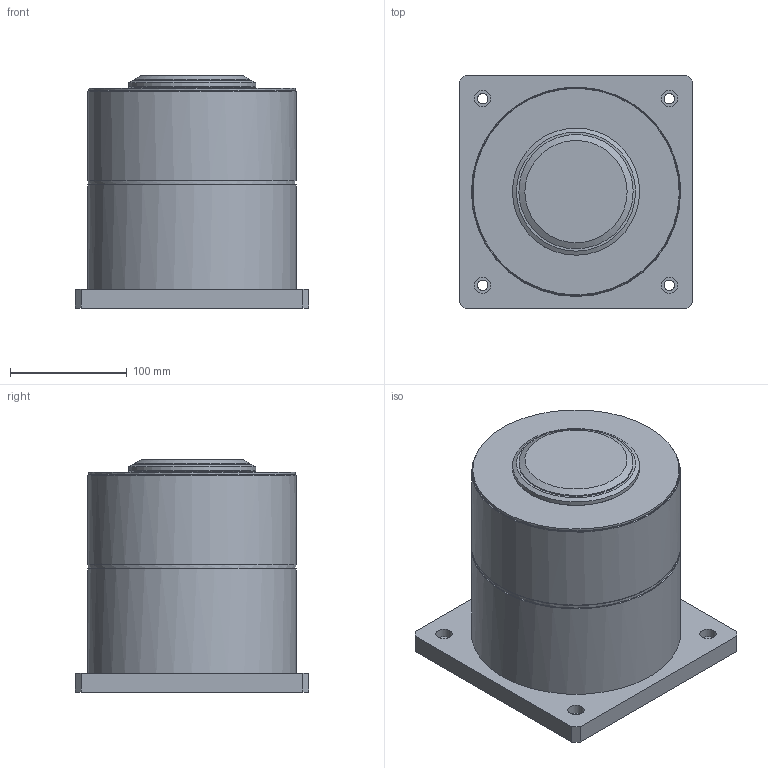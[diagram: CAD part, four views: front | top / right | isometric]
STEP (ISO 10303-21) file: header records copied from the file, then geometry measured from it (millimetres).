
FILE_DESCRIPTION(/* description */ (''),/* implementation_level */ '2;1');
FILE_NAME(/* name */ 'A:\업무자료\03. 개발\홍보자료제작\홈페이지(BKCI)\20181008 이전이력\첨부자료\STEP 파일\EFAU-30\EFFS\EFFS-30-0-UPE-S DOWN.stp',/* time_stamp */ '2018-11-30T15:18:18+09:00',/* author */ ('idt-l'),/* organization */ (''),/* preprocessor_version */ 'ST-DEVELOPER v16.13',/* originating_system */ 'Autodesk Inventor 2018',/* authorisation */ '');
FILE_SCHEMA (('AUTOMOTIVE_DESIGN { 1 0 10303 214 3 1 1 }'));
Length unit declared in the file: inch
Products named in the file (1): EFFS-30-0-UPE-S DOWN
Bounding box: 200 x 200 x 199 mm (x, y, z)
Volume: 5056689.8 mm3; surface area: 201387.6 mm2
Topology: 1 solids, 1 shells, 42 faces, 89 edges, 60 vertices
Faces by surface type: plane 21, cylinder 16, cone 5
Full cylindrical faces by diameter (mm): 9 x4, 14 x4, 87.608 x1, 98 x1, 109 x1, 177 x1, 178 x1, 179 x2, 179.2 x1
Entity records: 1093 total; most frequent: DIRECTION 182, CARTESIAN_POINT 155, ORIENTED_EDGE 120, EDGE_LOOP 82, AXIS2_PLACEMENT_3D 79, EDGE_CURVE 60, VERTEX_POINT 52, FACE_OUTER_BOUND 42
